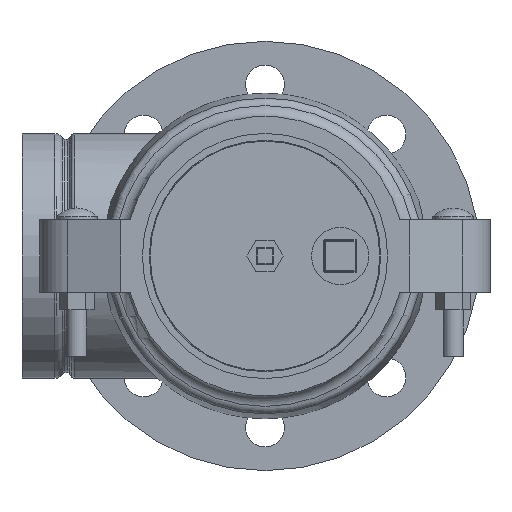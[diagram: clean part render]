
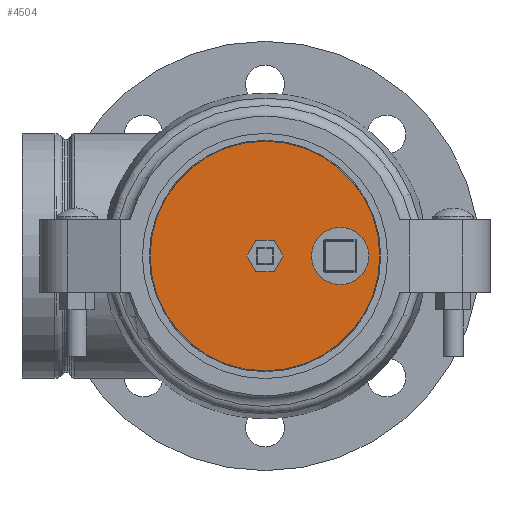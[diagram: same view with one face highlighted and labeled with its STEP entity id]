
A CAD part, left-side view. The second image highlights one B-rep face of the part: STEP entity #4504.
In plain terms, the highlighted planar face has unit normal (-1, 0, 0).
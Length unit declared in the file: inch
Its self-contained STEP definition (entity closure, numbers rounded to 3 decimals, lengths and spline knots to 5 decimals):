
#84=FACE_BOUND('',#1546,.T.);
#85=FACE_BOUND('',#1547,.T.);
#145=PLANE('',#5061);
#465=CIRCLE('',#5060,0.525);
#466=CIRCLE('',#5062,2.1077);
#467=CIRCLE('',#5063,2.1077);
#738=LINE('',#7643,#965);
#741=LINE('',#7648,#968);
#743=LINE('',#7652,#970);
#745=LINE('',#7656,#972);
#747=LINE('',#7660,#974);
#749=LINE('',#7663,#976);
#965=VECTOR('',#6105,0.3937);
#968=VECTOR('',#6110,0.3937);
#970=VECTOR('',#6114,0.3937);
#972=VECTOR('',#6118,0.3937);
#974=VECTOR('',#6122,0.3937);
#976=VECTOR('',#6126,0.3937);
#1307=FACE_OUTER_BOUND('',#1545,.T.);
#1545=EDGE_LOOP('',(#3440,#3441));
#1546=EDGE_LOOP('',(#3442,#3443,#3444,#3445,#3446,#3447));
#1547=EDGE_LOOP('',(#3448));
#1915=VERTEX_POINT('',#7641);
#1916=VERTEX_POINT('',#7642);
#1917=VERTEX_POINT('',#7647);
#1918=VERTEX_POINT('',#7651);
#1919=VERTEX_POINT('',#7655);
#1920=VERTEX_POINT('',#7659);
#1921=VERTEX_POINT('',#7665);
#1922=VERTEX_POINT('',#7669);
#1923=VERTEX_POINT('',#7670);
#2463=EDGE_CURVE('',#1915,#1916,#738,.T.);
#2466=EDGE_CURVE('',#1916,#1917,#741,.T.);
#2468=EDGE_CURVE('',#1917,#1918,#743,.T.);
#2470=EDGE_CURVE('',#1918,#1919,#745,.T.);
#2472=EDGE_CURVE('',#1919,#1920,#747,.T.);
#2474=EDGE_CURVE('',#1920,#1915,#749,.T.);
#2476=EDGE_CURVE('',#1921,#1921,#465,.T.);
#2477=EDGE_CURVE('',#1922,#1923,#466,.T.);
#2478=EDGE_CURVE('',#1923,#1922,#467,.T.);
#3440=ORIENTED_EDGE('',*,*,#2477,.F.);
#3441=ORIENTED_EDGE('',*,*,#2478,.F.);
#3442=ORIENTED_EDGE('',*,*,#2463,.T.);
#3443=ORIENTED_EDGE('',*,*,#2466,.T.);
#3444=ORIENTED_EDGE('',*,*,#2468,.T.);
#3445=ORIENTED_EDGE('',*,*,#2470,.T.);
#3446=ORIENTED_EDGE('',*,*,#2472,.T.);
#3447=ORIENTED_EDGE('',*,*,#2474,.T.);
#3448=ORIENTED_EDGE('',*,*,#2476,.T.);
#4504=ADVANCED_FACE('',(#1307,#84,#85),#145,.T.);
#5060=AXIS2_PLACEMENT_3D('',#7667,#6130,#6131);
#5061=AXIS2_PLACEMENT_3D('',#7668,#6132,#6133);
#5062=AXIS2_PLACEMENT_3D('',#7671,#6134,#6135);
#5063=AXIS2_PLACEMENT_3D('',#7672,#6136,#6137);
#6105=DIRECTION('',(0.,-1.,0.));
#6110=DIRECTION('',(0.,-0.5,-0.866));
#6114=DIRECTION('',(0.,0.5,-0.866));
#6118=DIRECTION('',(0.,1.,0.));
#6122=DIRECTION('',(0.,0.5,0.866));
#6126=DIRECTION('',(0.,-0.5,0.866));
#6130=DIRECTION('center_axis',(1.,0.,0.));
#6131=DIRECTION('ref_axis',(0.,0.,-1.));
#6132=DIRECTION('center_axis',(-1.,0.,0.));
#6133=DIRECTION('ref_axis',(0.,0.,1.));
#6134=DIRECTION('center_axis',(1.,0.,0.));
#6135=DIRECTION('ref_axis',(0.,0.,-1.));
#6136=DIRECTION('center_axis',(1.,0.,0.));
#6137=DIRECTION('ref_axis',(0.,0.,-1.));
#7641=CARTESIAN_POINT('',(-0.275,0.16599,0.2875));
#7642=CARTESIAN_POINT('',(-0.275,-0.16599,0.2875));
#7643=CARTESIAN_POINT('',(-0.275,0.97086,0.2875));
#7647=CARTESIAN_POINT('',(-0.275,-0.33198,0.));
#7648=CARTESIAN_POINT('',(-0.275,-0.02702,0.52821));
#7651=CARTESIAN_POINT('',(-0.275,-0.16599,-0.2875));
#7652=CARTESIAN_POINT('',(-0.275,0.05598,-0.67196));
#7655=CARTESIAN_POINT('',(-0.275,0.16599,-0.2875));
#7656=CARTESIAN_POINT('',(-0.275,1.13684,-0.2875));
#7659=CARTESIAN_POINT('',(-0.275,0.33198,0.));
#7660=CARTESIAN_POINT('',(-0.275,0.55394,0.38446));
#7663=CARTESIAN_POINT('',(-0.275,0.47095,-0.24071));
#7665=CARTESIAN_POINT('',(-0.275,-1.38,0.525));
#7667=CARTESIAN_POINT('Origin',(-0.275,-1.38,0.));
#7668=CARTESIAN_POINT('Origin',(-0.275,2.1077,0.));
#7669=CARTESIAN_POINT('',(-0.275,2.1077,0.));
#7670=CARTESIAN_POINT('',(-0.275,-2.1077,0.));
#7671=CARTESIAN_POINT('Origin',(-0.275,0.,0.));
#7672=CARTESIAN_POINT('Origin',(-0.275,0.,0.));
